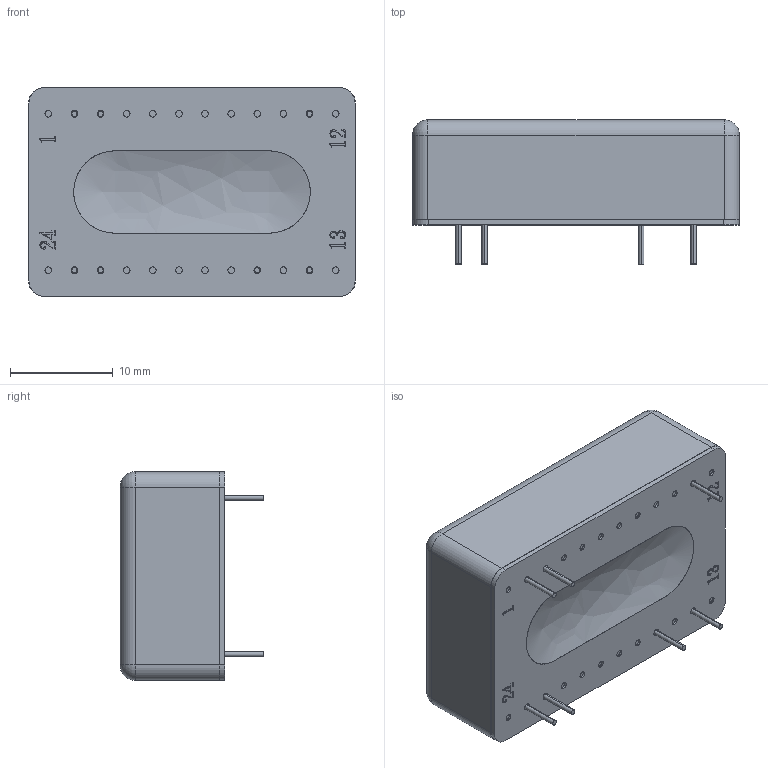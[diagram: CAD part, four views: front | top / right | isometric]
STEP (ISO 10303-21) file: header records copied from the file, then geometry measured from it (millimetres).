
FILE_DESCRIPTION (( 'STEP AP214' ), '1' );
FILE_NAME ('EC7A.STEP', '2018-01-03T00:47:09', ( 'cincon' ), ( '' ), 'SwSTEP 2.0', 'SolidWorks 2008', '' );
FILE_SCHEMA (( 'AUTOMOTIVE_DESIGN' ));
Length unit declared in the file: millimetre
Products named in the file (4): DV84B-IN-1060104; DV84B CASE-1060104; EC7A; DV84B BASE-1060104
Assembly tree (3 placements, depth 2):
  EC7A
    DV84B BASE-1060104
    DV84B CASE-1060104
    DV84B-IN-1060104
Bounding box: 31.8 x 14 x 20.3 mm (x, y, z)
Volume: 6447.1 mm3; surface area: 6389.5 mm2
Topology: 3 solids, 3 shells, 441 faces, 1113 edges, 708 vertices
Faces by surface type: cylinder 146, plane 134, bspline 101, cone 48, sphere 12
Entity records: 16626 total; most frequent: CARTESIAN_POINT 6068, ORIENTED_EDGE 2202, DIRECTION 1921, EDGE_CURVE 1101, VERTEX_POINT 708, AXIS2_PLACEMENT_3D 688, VECTOR 545, LINE 545
